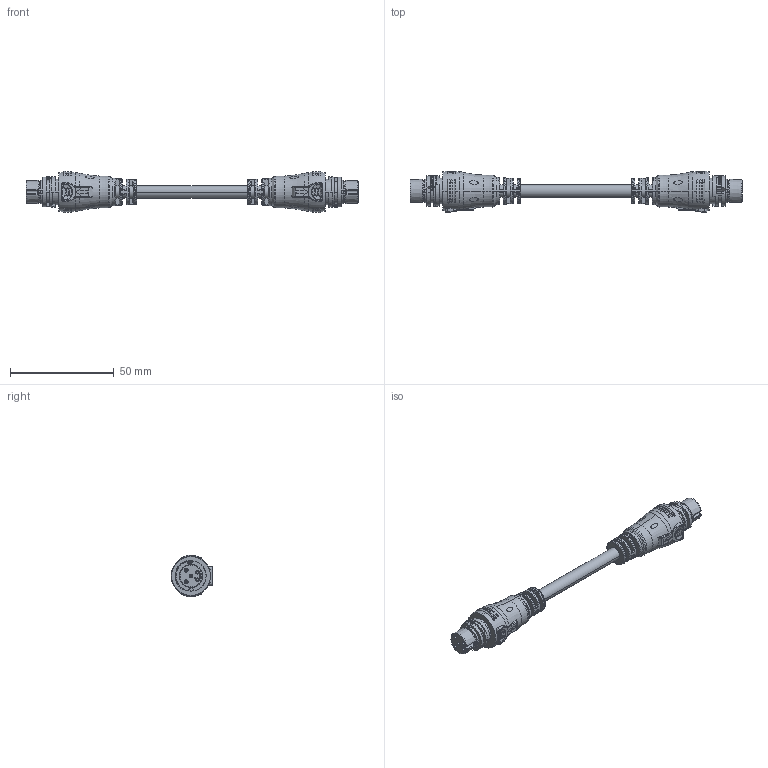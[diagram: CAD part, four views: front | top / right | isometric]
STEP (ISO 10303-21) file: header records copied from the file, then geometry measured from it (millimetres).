
FILE_DESCRIPTION((''),'2;1');
FILE_NAME('AB-BD05FL-BDFL-QDXXX_SW0001','2021-10-19T',('L050004'),(''),'PRO/ENGINEER BY PARAMETRIC TECHNOLOGY CORPORATION, 2017170','PRO/ENGINEER BY PARAMETRIC TECHNOLOGY CORPORATION, 2017170','');
FILE_SCHEMA(('CONFIG_CONTROL_DESIGN'));
Products named in the file (1): AB-BD05FL-BDFL-QDXXX_SW0001
Bounding box: 160.3 x 20.07 x 20.09 mm (x, y, z)
Volume: 19053.2 mm3; surface area: 9368 mm2
Topology: 1 solids, 5 shells, 1106 faces, 2957 edges, 1902 vertices
Faces by surface type: plane 474, bspline 217, cylinder 188, extrusion 68, torus 63, cone 60, revolution 30, sphere 6
Entity records: 68923 total; most frequent: CARTESIAN_POINT 43091, ORIENTED_EDGE 5906, DIRECTION 4498, EDGE_CURVE 2953, VERTEX_POINT 1902, AXIS2_PLACEMENT_3D 1609, VECTOR 1250, EDGE_LOOP 1241
